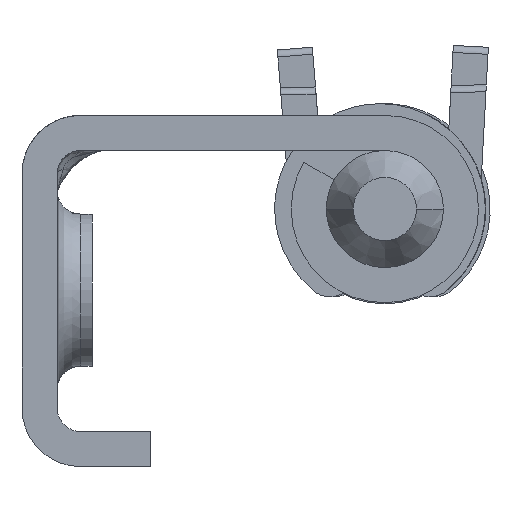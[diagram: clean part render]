
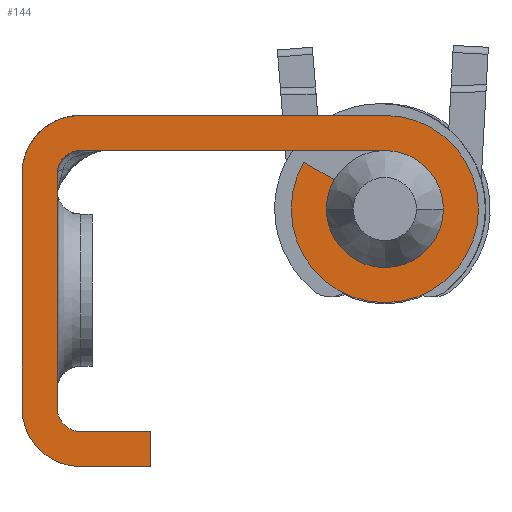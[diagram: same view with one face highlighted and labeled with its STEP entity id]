
A CAD part, front view. The second image highlights one B-rep face of the part: STEP entity #144.
In plain terms, the highlighted planar face has unit normal (0, -1, 0).
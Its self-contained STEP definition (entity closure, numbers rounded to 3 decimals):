
#144=ADVANCED_FACE('',(#335),#3133,.T.);
#335=FACE_OUTER_BOUND('',#527,.T.);
#527=EDGE_LOOP('',(#1053,#1054,#1055,#1056,#1057,#1058,#1059,#1060,#1061,
#1062,#1063,#1064,#1065,#1066));
#1053=ORIENTED_EDGE('',*,*,#1791,.T.);
#1054=ORIENTED_EDGE('',*,*,#1795,.T.);
#1055=ORIENTED_EDGE('',*,*,#1798,.T.);
#1056=ORIENTED_EDGE('',*,*,#1801,.T.);
#1057=ORIENTED_EDGE('',*,*,#1804,.T.);
#1058=ORIENTED_EDGE('',*,*,#1807,.T.);
#1059=ORIENTED_EDGE('',*,*,#1810,.T.);
#1060=ORIENTED_EDGE('',*,*,#1813,.T.);
#1061=ORIENTED_EDGE('',*,*,#1816,.T.);
#1062=ORIENTED_EDGE('',*,*,#1819,.T.);
#1063=ORIENTED_EDGE('',*,*,#1822,.T.);
#1064=ORIENTED_EDGE('',*,*,#1825,.T.);
#1065=ORIENTED_EDGE('',*,*,#1828,.T.);
#1066=ORIENTED_EDGE('',*,*,#1830,.T.);
#1791=EDGE_CURVE('',#2822,#2821,#2639,.T.);
#1795=EDGE_CURVE('',#2821,#2824,#2643,.T.);
#1798=EDGE_CURVE('',#2824,#2826,#2646,.T.);
#1801=EDGE_CURVE('',#2826,#2828,#2231,.T.);
#1804=EDGE_CURVE('',#2828,#2830,#2649,.T.);
#1807=EDGE_CURVE('',#2830,#2832,#2233,.T.);
#1810=EDGE_CURVE('',#2832,#2834,#2652,.T.);
#1813=EDGE_CURVE('',#2834,#2836,#2235,.T.);
#1816=EDGE_CURVE('',#2836,#2838,#2655,.T.);
#1819=EDGE_CURVE('',#2838,#2840,#2237,.T.);
#1822=EDGE_CURVE('',#2840,#2842,#2658,.T.);
#1825=EDGE_CURVE('',#2842,#2844,#2239,.T.);
#1828=EDGE_CURVE('',#2844,#2846,#2661,.T.);
#1830=EDGE_CURVE('',#2846,#2822,#2241,.T.);
#2231=TRIMMED_CURVE($,#2361,(#6324),(#6325),.T.,.CARTESIAN.);
#2233=TRIMMED_CURVE($,#2363,(#6338),(#6339),.T.,.CARTESIAN.);
#2235=TRIMMED_CURVE($,#2365,(#6352),(#6353),.T.,.CARTESIAN.);
#2237=TRIMMED_CURVE($,#2367,(#6366),(#6367),.T.,.CARTESIAN.);
#2239=TRIMMED_CURVE($,#2369,(#6380),(#6381),.T.,.CARTESIAN.);
#2241=TRIMMED_CURVE($,#2371,(#6392),(#6393),.T.,.CARTESIAN.);
#2361=CIRCLE('',#3375,1.);
#2363=CIRCLE('',#3377,1.);
#2365=CIRCLE('',#3379,2.5);
#2367=CIRCLE('',#3381,4.);
#2369=CIRCLE('',#3383,2.5);
#2371=CIRCLE('',#3385,2.5);
#2639=B_SPLINE_CURVE_WITH_KNOTS('',1,(#6302,#6303),.UNSPECIFIED.,.F.,.F.,
(2,2),(-236.445,-233.445),.UNSPECIFIED.);
#2643=B_SPLINE_CURVE_WITH_KNOTS('',1,(#6310,#6311),.UNSPECIFIED.,.F.,.F.,
(2,2),(-233.445,-231.945),.UNSPECIFIED.);
#2646=B_SPLINE_CURVE_WITH_KNOTS('',1,(#6316,#6317),.UNSPECIFIED.,.F.,.F.,
(2,2),(-231.945,-228.945),.UNSPECIFIED.);
#2649=B_SPLINE_CURVE_WITH_KNOTS('',1,(#6330,#6331),.UNSPECIFIED.,.F.,.F.,
(2,2),(-227.375,-217.375),.UNSPECIFIED.);
#2652=B_SPLINE_CURVE_WITH_KNOTS('',1,(#6344,#6345),.UNSPECIFIED.,.F.,.F.,
(2,2),(-215.804,-202.804),.UNSPECIFIED.);
#2655=B_SPLINE_CURVE_WITH_KNOTS('',1,(#6358,#6359),.UNSPECIFIED.,.F.,.F.,
(2,2),(-189.714,-188.214),.UNSPECIFIED.);
#2658=B_SPLINE_CURVE_WITH_KNOTS('',1,(#6372,#6373),.UNSPECIFIED.,.F.,.F.,
(2,2),(-175.124,-162.124),.UNSPECIFIED.);
#2661=B_SPLINE_CURVE_WITH_KNOTS('',1,(#6386,#6387),.UNSPECIFIED.,.F.,.F.,
(2,2),(-158.197,-148.197),.UNSPECIFIED.);
#2821=VERTEX_POINT('',#6140);
#2822=VERTEX_POINT('',#6141);
#2824=VERTEX_POINT('',#6143);
#2826=VERTEX_POINT('',#6145);
#2828=VERTEX_POINT('',#6147);
#2830=VERTEX_POINT('',#6149);
#2832=VERTEX_POINT('',#6151);
#2834=VERTEX_POINT('',#6153);
#2836=VERTEX_POINT('',#6155);
#2838=VERTEX_POINT('',#6157);
#2840=VERTEX_POINT('',#6159);
#2842=VERTEX_POINT('',#6161);
#2844=VERTEX_POINT('',#6163);
#2846=VERTEX_POINT('',#6165);
#3133=PLANE('',#3321);
#3321=AXIS2_PLACEMENT_3D('',#5327,#3607,$);
#3375=AXIS2_PLACEMENT_3D($,#6323,#3666,#3667);
#3377=AXIS2_PLACEMENT_3D($,#6337,#3670,#3671);
#3379=AXIS2_PLACEMENT_3D($,#6351,#3674,#3675);
#3381=AXIS2_PLACEMENT_3D($,#6365,#3678,#3679);
#3383=AXIS2_PLACEMENT_3D($,#6379,#3682,#3683);
#3385=AXIS2_PLACEMENT_3D($,#6391,#3686,#3687);
#3607=DIRECTION('',(0.,-1.,0.));
#3666=DIRECTION('',(0.,1.,0.));
#3667=DIRECTION('',(0.,0.,-1.));
#3670=DIRECTION('',(0.,1.,0.));
#3671=DIRECTION('',(-1.,0.,0.));
#3674=DIRECTION('',(0.,1.,0.));
#3675=DIRECTION('',(0.,0.,1.));
#3678=DIRECTION('',(0.,-1.,0.));
#3679=DIRECTION('',(-0.866,0.,0.5));
#3682=DIRECTION('',(0.,-1.,0.));
#3683=DIRECTION('',(0.,0.,1.));
#3686=DIRECTION('',(0.,-1.,0.));
#3687=DIRECTION('',(-1.,0.,0.));
#5327=CARTESIAN_POINT('',(197.769,-41.167,21.006));
#6140=CARTESIAN_POINT('',(183.574,-41.167,21.006));
#6141=CARTESIAN_POINT('',(180.574,-41.167,21.006));
#6143=CARTESIAN_POINT('',(183.574,-41.167,22.506));
#6145=CARTESIAN_POINT('',(180.574,-41.167,22.506));
#6147=CARTESIAN_POINT('',(179.574,-41.167,23.506));
#6149=CARTESIAN_POINT('',(179.574,-41.167,33.506));
#6151=CARTESIAN_POINT('',(180.574,-41.167,34.506));
#6153=CARTESIAN_POINT('',(193.574,-41.167,34.506));
#6155=CARTESIAN_POINT('',(191.409,-41.167,33.256));
#6157=CARTESIAN_POINT('',(190.11,-41.167,34.006));
#6159=CARTESIAN_POINT('',(193.574,-41.167,36.006));
#6161=CARTESIAN_POINT('',(180.574,-41.167,36.006));
#6163=CARTESIAN_POINT('',(178.074,-41.167,33.506));
#6165=CARTESIAN_POINT('',(178.074,-41.167,23.506));
#6302=CARTESIAN_POINT('',(180.574,-41.167,21.006));
#6303=CARTESIAN_POINT('',(183.574,-41.167,21.006));
#6310=CARTESIAN_POINT('',(183.574,-41.167,21.006));
#6311=CARTESIAN_POINT('',(183.574,-41.167,22.506));
#6316=CARTESIAN_POINT('',(183.574,-41.167,22.506));
#6317=CARTESIAN_POINT('',(180.574,-41.167,22.506));
#6323=CARTESIAN_POINT('',(180.574,-41.167,23.506));
#6324=CARTESIAN_POINT('',(180.574,-41.167,22.506));
#6325=CARTESIAN_POINT('',(179.574,-41.167,23.506));
#6330=CARTESIAN_POINT('',(179.574,-41.167,23.506));
#6331=CARTESIAN_POINT('',(179.574,-41.167,33.506));
#6337=CARTESIAN_POINT('',(180.574,-41.167,33.506));
#6338=CARTESIAN_POINT('',(179.574,-41.167,33.506));
#6339=CARTESIAN_POINT('',(180.574,-41.167,34.506));
#6344=CARTESIAN_POINT('',(180.574,-41.167,34.506));
#6345=CARTESIAN_POINT('',(193.574,-41.167,34.506));
#6351=CARTESIAN_POINT('',(193.574,-41.167,32.006));
#6352=CARTESIAN_POINT('',(193.574,-41.167,34.506));
#6353=CARTESIAN_POINT('',(191.409,-41.167,33.256));
#6358=CARTESIAN_POINT('',(191.409,-41.167,33.256));
#6359=CARTESIAN_POINT('',(190.11,-41.167,34.006));
#6365=CARTESIAN_POINT('',(193.574,-41.167,32.006));
#6366=CARTESIAN_POINT('',(190.11,-41.167,34.006));
#6367=CARTESIAN_POINT('',(193.574,-41.167,36.006));
#6372=CARTESIAN_POINT('',(193.574,-41.167,36.006));
#6373=CARTESIAN_POINT('',(180.574,-41.167,36.006));
#6379=CARTESIAN_POINT('',(180.574,-41.167,33.506));
#6380=CARTESIAN_POINT('',(180.574,-41.167,36.006));
#6381=CARTESIAN_POINT('',(178.074,-41.167,33.506));
#6386=CARTESIAN_POINT('',(178.074,-41.167,33.506));
#6387=CARTESIAN_POINT('',(178.074,-41.167,23.506));
#6391=CARTESIAN_POINT('',(180.574,-41.167,23.506));
#6392=CARTESIAN_POINT('',(178.074,-41.167,23.506));
#6393=CARTESIAN_POINT('',(180.574,-41.167,21.006));
